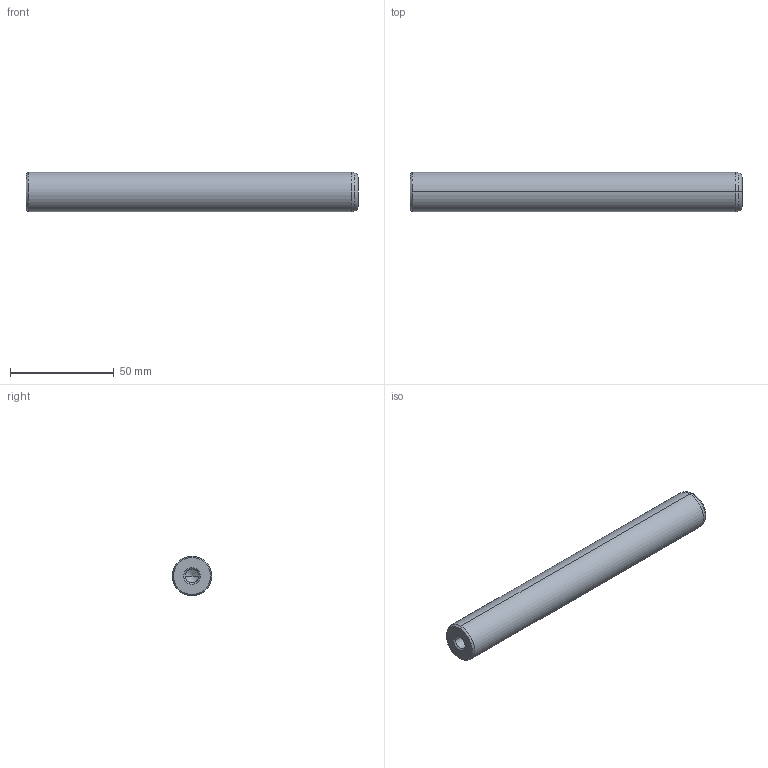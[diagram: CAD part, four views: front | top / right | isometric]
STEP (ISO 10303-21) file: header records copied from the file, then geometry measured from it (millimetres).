
FILE_DESCRIPTION(('CATIA V5 STEP Exchange'),'2;1');
FILE_NAME('C:\Users\Utente\Desktop\IO LAVORO\3D X SITO CF\X SITO\720\720-19x160.stp','2021-01-01T13:07:07+00:00',('none'),('none'),'CATIA Version 5 Release 20 GA (IN-10)','CATIA V5 STEP AP203','none');
FILE_SCHEMA(('CONFIG_CONTROL_DESIGN'));
Length unit declared in the file: millimetre
Products named in the file (1): 720-19x160
Bounding box: 160 x 19 x 19 mm (x, y, z)
Volume: 43533.6 mm3; surface area: 11015.7 mm2
Topology: 1 solids, 1 shells, 22 faces, 56 edges, 34 vertices
Faces by surface type: cone 12, cylinder 6, plane 2, torus 2
Entity records: 755 total; most frequent: CARTESIAN_POINT 216, ORIENTED_EDGE 104, DIRECTION 89, EDGE_CURVE 52, AXIS2_PLACEMENT_3D 50, VERTEX_POINT 34, CIRCLE 27, EDGE_LOOP 24
